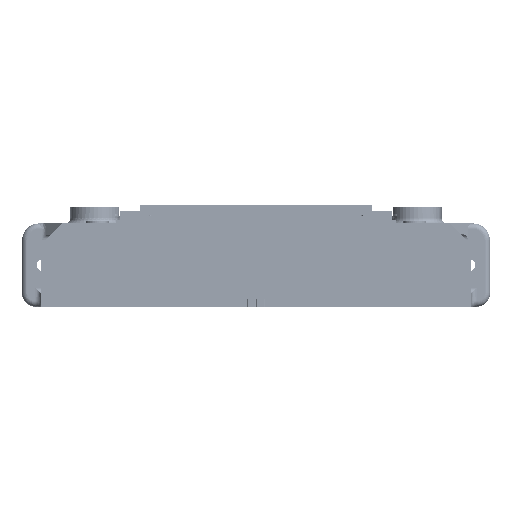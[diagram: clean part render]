
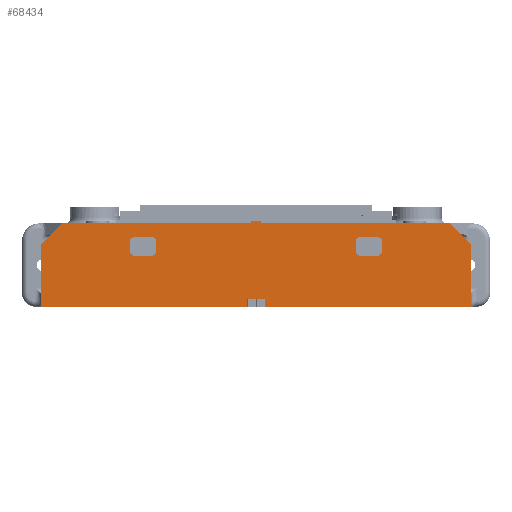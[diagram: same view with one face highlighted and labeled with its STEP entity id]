
A CAD part, left-side view. The second image highlights one B-rep face of the part: STEP entity #68434.
In plain terms, the highlighted planar face has unit normal (-1, 0, 0).
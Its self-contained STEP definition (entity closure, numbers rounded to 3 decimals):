
#60446=PLANE('',#257557);
#68434=ADVANCED_FACE('PARTBODY',(#79523,#79524,#79525),#60446,.F.);
#79523=FACE_BOUND('',#83537,.T.);
#79524=FACE_BOUND('',#83538,.T.);
#79525=FACE_BOUND('',#83539,.T.);
#83537=EDGE_LOOP('',(#95882,#95883,#95884,#95885,#95886,#95887,#95888,#95889,
#95890,#95891,#95892,#95893,#95894,#95895));
#83538=EDGE_LOOP('',(#95896,#95897,#95898,#95899,#95900,#95901,#95902,#95903));
#83539=EDGE_LOOP('',(#95904,#95905,#95906,#95907,#95908,#95909,#95910,#95911));
#95882=ORIENTED_EDGE('',*,*,#166943,.T.);
#95883=ORIENTED_EDGE('',*,*,#166944,.F.);
#95884=ORIENTED_EDGE('',*,*,#166945,.F.);
#95885=ORIENTED_EDGE('',*,*,#166946,.T.);
#95886=ORIENTED_EDGE('',*,*,#166947,.T.);
#95887=ORIENTED_EDGE('',*,*,#166948,.F.);
#95888=ORIENTED_EDGE('',*,*,#166457,.F.);
#95889=ORIENTED_EDGE('',*,*,#166949,.T.);
#95890=ORIENTED_EDGE('',*,*,#166950,.F.);
#95891=ORIENTED_EDGE('',*,*,#166951,.F.);
#95892=ORIENTED_EDGE('',*,*,#166453,.F.);
#95893=ORIENTED_EDGE('',*,*,#166942,.F.);
#95894=ORIENTED_EDGE('',*,*,#166952,.F.);
#95895=ORIENTED_EDGE('',*,*,#166953,.T.);
#95896=ORIENTED_EDGE('',*,*,#166954,.F.);
#95897=ORIENTED_EDGE('',*,*,#166955,.F.);
#95898=ORIENTED_EDGE('',*,*,#166956,.F.);
#95899=ORIENTED_EDGE('',*,*,#166957,.F.);
#95900=ORIENTED_EDGE('',*,*,#166958,.F.);
#95901=ORIENTED_EDGE('',*,*,#166959,.F.);
#95902=ORIENTED_EDGE('',*,*,#166960,.F.);
#95903=ORIENTED_EDGE('',*,*,#166961,.F.);
#95904=ORIENTED_EDGE('',*,*,#166962,.F.);
#95905=ORIENTED_EDGE('',*,*,#166963,.F.);
#95906=ORIENTED_EDGE('',*,*,#166964,.F.);
#95907=ORIENTED_EDGE('',*,*,#166965,.F.);
#95908=ORIENTED_EDGE('',*,*,#166966,.F.);
#95909=ORIENTED_EDGE('',*,*,#166967,.F.);
#95910=ORIENTED_EDGE('',*,*,#166968,.F.);
#95911=ORIENTED_EDGE('',*,*,#166969,.F.);
#148001=VERTEX_POINT('',#322450);
#148002=VERTEX_POINT('',#322452);
#148005=VERTEX_POINT('',#322458);
#148006=VERTEX_POINT('',#322460);
#148442=VERTEX_POINT('',#323732);
#148443=VERTEX_POINT('',#323736);
#148444=VERTEX_POINT('',#323737);
#148445=VERTEX_POINT('',#323739);
#148446=VERTEX_POINT('',#323741);
#148447=VERTEX_POINT('',#323743);
#148448=VERTEX_POINT('',#323745);
#148449=VERTEX_POINT('',#323748);
#148450=VERTEX_POINT('',#323750);
#148451=VERTEX_POINT('',#323753);
#148452=VERTEX_POINT('',#323756);
#148453=VERTEX_POINT('',#323757);
#148454=VERTEX_POINT('',#323759);
#148455=VERTEX_POINT('',#323761);
#148456=VERTEX_POINT('',#323763);
#148457=VERTEX_POINT('',#323765);
#148458=VERTEX_POINT('',#323767);
#148459=VERTEX_POINT('',#323769);
#148460=VERTEX_POINT('',#323772);
#148461=VERTEX_POINT('',#323773);
#148462=VERTEX_POINT('',#323775);
#148463=VERTEX_POINT('',#323777);
#148464=VERTEX_POINT('',#323779);
#148465=VERTEX_POINT('',#323781);
#148466=VERTEX_POINT('',#323783);
#148467=VERTEX_POINT('',#323785);
#166453=EDGE_CURVE('LINE',#148001,#148002,#209236,.T.);
#166457=EDGE_CURVE('LINE',#148005,#148006,#209240,.T.);
#166942=EDGE_CURVE('LINE',#148442,#148001,#209582,.T.);
#166943=EDGE_CURVE('LINE',#148443,#148444,#209583,.T.);
#166944=EDGE_CURVE('LINE',#148445,#148444,#209584,.T.);
#166945=EDGE_CURVE('LINE',#148446,#148445,#209585,.T.);
#166946=EDGE_CURVE('LINE',#148446,#148447,#209586,.T.);
#166947=EDGE_CURVE('LINE',#148447,#148448,#209587,.T.);
#166948=EDGE_CURVE('LINE',#148006,#148448,#209588,.T.);
#166949=EDGE_CURVE('LINE',#148005,#148449,#209589,.T.);
#166950=EDGE_CURVE('LINE',#148450,#148449,#209590,.T.);
#166951=EDGE_CURVE('LINE',#148002,#148450,#209591,.T.);
#166952=EDGE_CURVE('LINE',#148451,#148442,#209592,.T.);
#166953=EDGE_CURVE('LINE',#148451,#148443,#209593,.T.);
#166954=EDGE_CURVE('GENERATED CIRCLE',#148452,#148453,#193915,.T.);
#166955=EDGE_CURVE('LINE',#148454,#148452,#209594,.T.);
#166956=EDGE_CURVE('GENERATED CIRCLE',#148455,#148454,#193916,.T.);
#166957=EDGE_CURVE('LINE',#148456,#148455,#209595,.T.);
#166958=EDGE_CURVE('GENERATED CIRCLE',#148457,#148456,#193917,.T.);
#166959=EDGE_CURVE('LINE',#148458,#148457,#209596,.T.);
#166960=EDGE_CURVE('GENERATED CIRCLE',#148459,#148458,#193918,.T.);
#166961=EDGE_CURVE('LINE',#148453,#148459,#209597,.T.);
#166962=EDGE_CURVE('LINE',#148460,#148461,#209598,.T.);
#166963=EDGE_CURVE('GENERATED CIRCLE',#148462,#148460,#193919,.T.);
#166964=EDGE_CURVE('LINE',#148463,#148462,#209599,.T.);
#166965=EDGE_CURVE('GENERATED CIRCLE',#148464,#148463,#193920,.T.);
#166966=EDGE_CURVE('LINE',#148465,#148464,#209600,.T.);
#166967=EDGE_CURVE('GENERATED CIRCLE',#148466,#148465,#193921,.T.);
#166968=EDGE_CURVE('LINE',#148467,#148466,#209601,.T.);
#166969=EDGE_CURVE('GENERATED CIRCLE',#148461,#148467,#193922,.T.);
#193915=CIRCLE('',#257549,20.);
#193916=CIRCLE('',#257550,20.);
#193917=CIRCLE('',#257551,20.);
#193918=CIRCLE('',#257552,20.);
#193919=CIRCLE('',#257553,20.);
#193920=CIRCLE('',#257554,20.);
#193921=CIRCLE('',#257555,20.);
#193922=CIRCLE('',#257556,20.);
#209236=LINE('',#322451,#232794);
#209240=LINE('',#322459,#232798);
#209582=LINE('',#323733,#233140);
#209583=LINE('',#323735,#233141);
#209584=LINE('',#323738,#233142);
#209585=LINE('',#323740,#233143);
#209586=LINE('',#323742,#233144);
#209587=LINE('',#323744,#233145);
#209588=LINE('',#323746,#233146);
#209589=LINE('',#323747,#233147);
#209590=LINE('',#323749,#233148);
#209591=LINE('',#323751,#233149);
#209592=LINE('',#323752,#233150);
#209593=LINE('',#323754,#233151);
#209594=LINE('',#323758,#233152);
#209595=LINE('',#323762,#233153);
#209596=LINE('',#323766,#233154);
#209597=LINE('',#323770,#233155);
#209598=LINE('',#323771,#233156);
#209599=LINE('',#323776,#233157);
#209600=LINE('',#323780,#233158);
#209601=LINE('',#323784,#233159);
#232794=VECTOR('',#272321,1.);
#232798=VECTOR('',#272325,1.);
#233140=VECTOR('',#273005,1.);
#233141=VECTOR('',#273008,1.);
#233142=VECTOR('',#273009,1.);
#233143=VECTOR('',#273010,1.);
#233144=VECTOR('',#273011,1.);
#233145=VECTOR('',#273012,1.);
#233146=VECTOR('',#273013,1.);
#233147=VECTOR('',#273014,1.);
#233148=VECTOR('',#273015,1.);
#233149=VECTOR('',#273016,1.);
#233150=VECTOR('',#273017,1.);
#233151=VECTOR('',#273018,1.);
#233152=VECTOR('',#273021,1.);
#233153=VECTOR('',#273024,1.);
#233154=VECTOR('',#273027,1.);
#233155=VECTOR('',#273030,1.);
#233156=VECTOR('',#273031,1.);
#233157=VECTOR('',#273034,1.);
#233158=VECTOR('',#273037,1.);
#233159=VECTOR('',#273040,1.);
#257549=AXIS2_PLACEMENT_3D('',#323755,#273019,#273020);
#257550=AXIS2_PLACEMENT_3D('',#323760,#273022,#273023);
#257551=AXIS2_PLACEMENT_3D('',#323764,#273025,#273026);
#257552=AXIS2_PLACEMENT_3D('',#323768,#273028,#273029);
#257553=AXIS2_PLACEMENT_3D('',#323774,#273032,#273033);
#257554=AXIS2_PLACEMENT_3D('',#323778,#273035,#273036);
#257555=AXIS2_PLACEMENT_3D('',#323782,#273038,#273039);
#257556=AXIS2_PLACEMENT_3D('',#323786,#273041,#273042);
#257557=AXIS2_PLACEMENT_3D('',#323787,#273043,#273044);
#272321=DIRECTION('',(0.,-1.,0.));
#272325=DIRECTION('',(0.,-1.,0.));
#273005=DIRECTION('',(0.,-0.707,0.707));
#273008=DIRECTION('',(0.,0.,1.));
#273009=DIRECTION('',(0.,1.,0.));
#273010=DIRECTION('',(0.,0.,1.));
#273011=DIRECTION('',(0.,-1.,0.));
#273012=DIRECTION('',(0.,0.,1.));
#273013=DIRECTION('',(0.,-0.707,-0.707));
#273014=DIRECTION('',(0.,0.,1.));
#273015=DIRECTION('',(0.,-1.,0.));
#273016=DIRECTION('',(0.,0.,1.));
#273017=DIRECTION('',(0.,0.,1.));
#273018=DIRECTION('',(0.,-1.,0.));
#273019=DIRECTION('',(-1.,0.,0.));
#273020=DIRECTION('',(0.,0.,-1.));
#273021=DIRECTION('',(0.,1.,0.));
#273022=DIRECTION('',(-1.,0.,0.));
#273023=DIRECTION('',(0.,0.,-1.));
#273024=DIRECTION('',(0.,0.,1.));
#273025=DIRECTION('',(-1.,0.,0.));
#273026=DIRECTION('',(0.,0.,-1.));
#273027=DIRECTION('',(0.,-1.,0.));
#273028=DIRECTION('',(-1.,0.,0.));
#273029=DIRECTION('',(0.,0.,-1.));
#273030=DIRECTION('',(0.,0.,-1.));
#273031=DIRECTION('',(0.,-1.,0.));
#273032=DIRECTION('',(-1.,0.,0.));
#273033=DIRECTION('',(0.,0.,-1.));
#273034=DIRECTION('',(0.,0.,-1.));
#273035=DIRECTION('',(-1.,0.,0.));
#273036=DIRECTION('',(0.,0.,-1.));
#273037=DIRECTION('',(0.,1.,0.));
#273038=DIRECTION('',(-1.,0.,0.));
#273039=DIRECTION('',(0.,0.,-1.));
#273040=DIRECTION('',(0.,0.,1.));
#273041=DIRECTION('',(-1.,0.,0.));
#273042=DIRECTION('',(0.,0.,-1.));
#273043=DIRECTION('',(1.,0.,0.));
#273044=DIRECTION('',(0.,-1.,0.));
#322450=CARTESIAN_POINT('',(-1750.,720.,240.));
#322451=CARTESIAN_POINT('',(-1750.,370.,240.));
#322452=CARTESIAN_POINT('',(-1750.,20.,240.));
#322458=CARTESIAN_POINT('',(-1750.,-20.,240.));
#322459=CARTESIAN_POINT('',(-1750.,-370.,240.));
#322460=CARTESIAN_POINT('',(-1750.,-720.,240.));
#323732=CARTESIAN_POINT('',(-1750.,800.,160.));
#323733=CARTESIAN_POINT('',(-1750.,760.,200.));
#323735=CARTESIAN_POINT('',(-1750.,35.,-55.));
#323736=CARTESIAN_POINT('',(-1750.,35.,-70.));
#323737=CARTESIAN_POINT('',(-1750.,35.,-40.));
#323738=CARTESIAN_POINT('',(-1750.,0.,-40.));
#323739=CARTESIAN_POINT('',(-1750.,-35.,-40.));
#323740=CARTESIAN_POINT('',(-1750.,-35.,-55.));
#323741=CARTESIAN_POINT('',(-1750.,-35.,-70.));
#323742=CARTESIAN_POINT('',(-1750.,-417.5,-70.));
#323743=CARTESIAN_POINT('',(-1750.,-800.,-70.));
#323744=CARTESIAN_POINT('',(-1750.,-800.,45.));
#323745=CARTESIAN_POINT('',(-1750.,-800.,160.));
#323746=CARTESIAN_POINT('',(-1750.,-760.,200.));
#323747=CARTESIAN_POINT('',(-1750.,-20.,245.));
#323748=CARTESIAN_POINT('',(-1750.,-20.,250.));
#323749=CARTESIAN_POINT('',(-1750.,0.,250.));
#323750=CARTESIAN_POINT('',(-1750.,20.,250.));
#323751=CARTESIAN_POINT('',(-1750.,20.,245.));
#323752=CARTESIAN_POINT('',(-1750.,800.,45.));
#323753=CARTESIAN_POINT('',(-1750.,800.,-70.));
#323754=CARTESIAN_POINT('',(-1750.,417.5,-70.));
#323755=CARTESIAN_POINT('',(-1750.,-390.,170.));
#323756=CARTESIAN_POINT('',(-1750.,-390.,190.));
#323757=CARTESIAN_POINT('',(-1750.,-370.,170.));
#323758=CARTESIAN_POINT('',(-1750.,-420.,190.));
#323759=CARTESIAN_POINT('',(-1750.,-450.,190.));
#323760=CARTESIAN_POINT('',(-1750.,-450.,170.));
#323761=CARTESIAN_POINT('',(-1750.,-470.,170.));
#323762=CARTESIAN_POINT('',(-1750.,-470.,155.));
#323763=CARTESIAN_POINT('',(-1750.,-470.,140.));
#323764=CARTESIAN_POINT('',(-1750.,-450.,140.));
#323765=CARTESIAN_POINT('',(-1750.,-450.,120.));
#323766=CARTESIAN_POINT('',(-1750.,-420.,120.));
#323767=CARTESIAN_POINT('',(-1750.,-390.,120.));
#323768=CARTESIAN_POINT('',(-1750.,-390.,140.));
#323769=CARTESIAN_POINT('',(-1750.,-370.,140.));
#323770=CARTESIAN_POINT('',(-1750.,-370.,155.));
#323771=CARTESIAN_POINT('',(-1750.,420.,120.));
#323772=CARTESIAN_POINT('',(-1750.,450.,120.));
#323773=CARTESIAN_POINT('',(-1750.,390.,120.));
#323774=CARTESIAN_POINT('',(-1750.,450.,140.));
#323775=CARTESIAN_POINT('',(-1750.,470.,140.));
#323776=CARTESIAN_POINT('',(-1750.,470.,155.));
#323777=CARTESIAN_POINT('',(-1750.,470.,170.));
#323778=CARTESIAN_POINT('',(-1750.,450.,170.));
#323779=CARTESIAN_POINT('',(-1750.,450.,190.));
#323780=CARTESIAN_POINT('',(-1750.,420.,190.));
#323781=CARTESIAN_POINT('',(-1750.,390.,190.));
#323782=CARTESIAN_POINT('',(-1750.,390.,170.));
#323783=CARTESIAN_POINT('',(-1750.,370.,170.));
#323784=CARTESIAN_POINT('',(-1750.,370.,155.));
#323785=CARTESIAN_POINT('',(-1750.,370.,140.));
#323786=CARTESIAN_POINT('',(-1750.,390.,140.));
#323787=CARTESIAN_POINT('',(-1750.,-800.,-70.));
